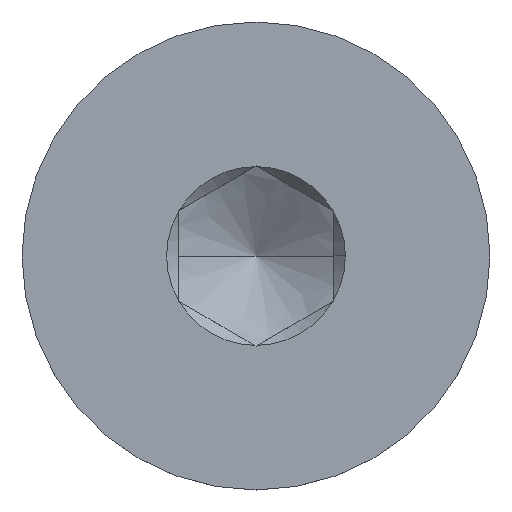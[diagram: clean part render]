
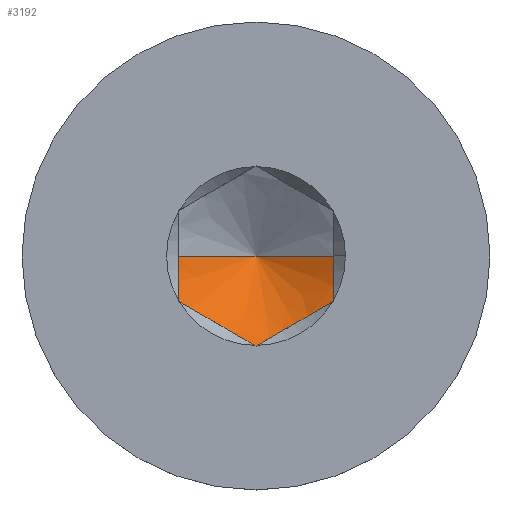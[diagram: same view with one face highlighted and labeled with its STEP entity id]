
A CAD part, top view. The second image highlights one B-rep face of the part: STEP entity #3192.
In plain terms, the highlighted conical face has half-angle 60 degrees and reference radius 1732.05 mm.
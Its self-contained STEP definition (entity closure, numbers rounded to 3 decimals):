
#404 = CARTESIAN_POINT ( 'NONE',  ( -2., -0.775, -1.633 ) ) ;
#689 = EDGE_CURVE ( 'NONE', #4118, #5537, #6896, .T. ) ;
#743 = CARTESIAN_POINT ( 'NONE',  ( -1.168, -1.635, -1.712 ) ) ;
#802 = DIRECTION ( 'NONE',  ( -0.866, 0., 0.5 ) ) ;
#1081 = CARTESIAN_POINT ( 'NONE',  ( 2., -0.389, -1.695 ) ) ;
#1110 = CARTESIAN_POINT ( 'NONE',  ( -2., -1.155, -1.533 ) ) ;
#1181 = CARTESIAN_POINT ( 'NONE',  ( 0., 0., -2.867 ) ) ;
#1215 = EDGE_CURVE ( 'NONE', #5323, #9851, #2265, .T. ) ;
#1278 = VECTOR ( 'NONE', #802, 1000. ) ;
#1413 = CARTESIAN_POINT ( 'NONE',  ( -1.338, -1.537, -1.695 ) ) ;
#1854 = CARTESIAN_POINT ( 'NONE',  ( 0., 0., -2.867 ) ) ;
#1956 = LINE ( 'NONE', #1181, #3613 ) ;
#1958 = ORIENTED_EDGE ( 'NONE', *, *, #8545, .F. ) ;
#2265 = B_SPLINE_CURVE_WITH_KNOTS ( 'NONE', 3,
 ( #9153, #6939, #10067, #743, #1413, #3010, #6127, #3883 ),
 .UNSPECIFIED., .F., .F.,
 ( 4, 2, 2, 4 ),
 ( 0., 0.001, 0.002, 0.002 ),
 .UNSPECIFIED. ) ;
#2674 = CARTESIAN_POINT ( 'NONE',  ( 0., 0., 997.133 ) ) ;
#2725 = CARTESIAN_POINT ( 'NONE',  ( -2., -1.155, -1.533 ) ) ;
#2823 = B_SPLINE_CURVE_WITH_KNOTS ( 'NONE', 3,
 ( #9432, #9385, #6342, #9334, #5493, #3859, #7058, #7744 ),
 .UNSPECIFIED., .F., .F.,
 ( 4, 2, 2, 4 ),
 ( 0., 0.001, 0.002, 0.002 ),
 .UNSPECIFIED. ) ;
#2909 = CARTESIAN_POINT ( 'NONE',  ( -2., 0., -1.712 ) ) ;
#3010 = CARTESIAN_POINT ( 'NONE',  ( -1.672, -1.344, -1.633 ) ) ;
#3014 = CARTESIAN_POINT ( 'NONE',  ( 0., -2.309, -1.533 ) ) ;
#3071 = CARTESIAN_POINT ( 'NONE',  ( 0., 0., -2.867 ) ) ;
#3192 = ADVANCED_FACE ( 'NONE', ( #4930 ), #4358, .F. ) ;
#3613 = VECTOR ( 'NONE', #7631, 1000. ) ;
#3758 = VERTEX_POINT ( 'NONE', #7543 ) ;
#3847 = ORIENTED_EDGE ( 'NONE', *, *, #8642, .F. ) ;
#3859 = CARTESIAN_POINT ( 'NONE',  ( 0.328, -2.12, -1.633 ) ) ;
#3883 = CARTESIAN_POINT ( 'NONE',  ( -2., -1.155, -1.533 ) ) ;
#4118 = VERTEX_POINT ( 'NONE', #1854 ) ;
#4358 = CONICAL_SURFACE ( 'NONE', #9914, 1732.051, 1.047 ) ;
#4463 = CARTESIAN_POINT ( 'NONE',  ( 2., -1.155, -1.533 ) ) ;
#4538 = B_SPLINE_CURVE_WITH_KNOTS ( 'NONE', 3,
 ( #6401, #9541, #1081, #7315, #9027, #4463 ),
 .UNSPECIFIED., .F., .F.,
 ( 4, 2, 4 ),
 ( 0.007, 0.008, 0.009 ),
 .UNSPECIFIED. ) ;
#4581 = EDGE_CURVE ( 'NONE', #3758, #5323, #2823, .T. ) ;
#4930 = FACE_OUTER_BOUND ( 'NONE', #5612, .T. ) ;
#5323 = VERTEX_POINT ( 'NONE', #3014 ) ;
#5493 = CARTESIAN_POINT ( 'NONE',  ( 0.662, -1.927, -1.695 ) ) ;
#5537 = VERTEX_POINT ( 'NONE', #2909 ) ;
#5612 = EDGE_LOOP ( 'NONE', ( #8513, #7408, #3847, #6751, #9477, #1958 ) ) ;
#5625 = B_SPLINE_CURVE_WITH_KNOTS ( 'NONE', 3,
 ( #2725, #8202, #404, #8405, #6801, #6650 ),
 .UNSPECIFIED., .F., .F.,
 ( 4, 2, 4 ),
 ( 0.002, 0.003, 0.003 ),
 .UNSPECIFIED. ) ;
#5741 = DIRECTION ( 'NONE',  ( 1., 0., 0. ) ) ;
#6127 = CARTESIAN_POINT ( 'NONE',  ( -1.837, -1.249, -1.588 ) ) ;
#6342 = CARTESIAN_POINT ( 'NONE',  ( 1.342, -1.535, -1.712 ) ) ;
#6401 = CARTESIAN_POINT ( 'NONE',  ( 2., 0., -1.712 ) ) ;
#6498 = DIRECTION ( 'NONE',  ( 0., 0., 1. ) ) ;
#6650 = CARTESIAN_POINT ( 'NONE',  ( -2., 0., -1.712 ) ) ;
#6751 = ORIENTED_EDGE ( 'NONE', *, *, #1215, .F. ) ;
#6801 = CARTESIAN_POINT ( 'NONE',  ( -2., -0.195, -1.712 ) ) ;
#6896 = LINE ( 'NONE', #3071, #1278 ) ;
#6939 = CARTESIAN_POINT ( 'NONE',  ( -0.327, -2.121, -1.642 ) ) ;
#7058 = CARTESIAN_POINT ( 'NONE',  ( 0.163, -2.215, -1.588 ) ) ;
#7315 = CARTESIAN_POINT ( 'NONE',  ( 2., -0.775, -1.633 ) ) ;
#7408 = ORIENTED_EDGE ( 'NONE', *, *, #689, .T. ) ;
#7543 = CARTESIAN_POINT ( 'NONE',  ( 2., -1.155, -1.533 ) ) ;
#7631 = DIRECTION ( 'NONE',  ( 0.866, 0., 0.5 ) ) ;
#7744 = CARTESIAN_POINT ( 'NONE',  ( 0., -2.309, -1.533 ) ) ;
#8177 = CARTESIAN_POINT ( 'NONE',  ( 2., 0., -1.712 ) ) ;
#8202 = CARTESIAN_POINT ( 'NONE',  ( -2., -0.967, -1.587 ) ) ;
#8405 = CARTESIAN_POINT ( 'NONE',  ( -2., -0.389, -1.695 ) ) ;
#8513 = ORIENTED_EDGE ( 'NONE', *, *, #8554, .F. ) ;
#8545 = EDGE_CURVE ( 'NONE', #9751, #3758, #4538, .T. ) ;
#8554 = EDGE_CURVE ( 'NONE', #4118, #9751, #1956, .T. ) ;
#8642 = EDGE_CURVE ( 'NONE', #9851, #5537, #5625, .T. ) ;
#9027 = CARTESIAN_POINT ( 'NONE',  ( 2., -0.967, -1.587 ) ) ;
#9153 = CARTESIAN_POINT ( 'NONE',  ( 0., -2.309, -1.533 ) ) ;
#9334 = CARTESIAN_POINT ( 'NONE',  ( 0.832, -1.829, -1.712 ) ) ;
#9385 = CARTESIAN_POINT ( 'NONE',  ( 1.673, -1.343, -1.642 ) ) ;
#9432 = CARTESIAN_POINT ( 'NONE',  ( 2., -1.155, -1.533 ) ) ;
#9477 = ORIENTED_EDGE ( 'NONE', *, *, #4581, .F. ) ;
#9541 = CARTESIAN_POINT ( 'NONE',  ( 2., -0.195, -1.712 ) ) ;
#9751 = VERTEX_POINT ( 'NONE', #8177 ) ;
#9851 = VERTEX_POINT ( 'NONE', #1110 ) ;
#9914 = AXIS2_PLACEMENT_3D ( 'NONE', #2674, #6498, #5741 ) ;
#10067 = CARTESIAN_POINT ( 'NONE',  ( -0.658, -1.929, -1.712 ) ) ;
